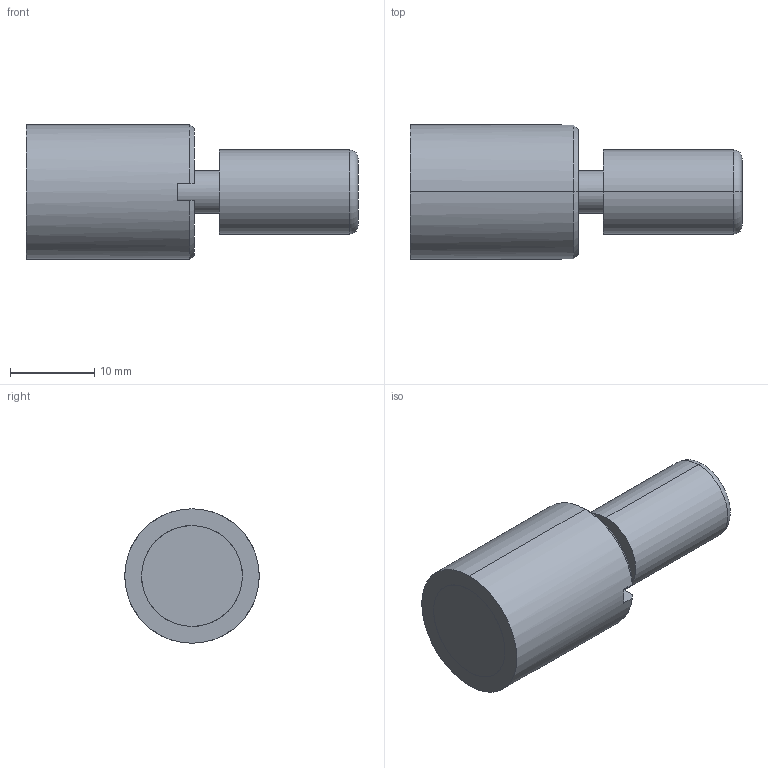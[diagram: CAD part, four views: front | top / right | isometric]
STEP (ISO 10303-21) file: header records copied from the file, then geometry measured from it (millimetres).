
FILE_DESCRIPTION(('CATIA V5 STEP Exchange'),'2;1');
FILE_NAME('C:\Users\Utente\Desktop\IO LAVORO\3D X SITO CF\X SITO\PLASTICA\CF-VPA\CF-VPA16.stp','2021-03-20T16:51:30+00:00',('none'),('none'),'CATIA Version 5 Release 20 GA (IN-10)','CATIA V5 STEP AP203','none');
FILE_SCHEMA(('CONFIG_CONTROL_DESIGN'));
Length unit declared in the file: millimetre
Products named in the file (1): CF-VPA16
Assembly tree (2 placements, depth 2):
  CF-VPA16
    #58
    #769
Bounding box: 39.5 x 16 x 16 mm (x, y, z)
Volume: 5199.4 mm3; surface area: 2933 mm2
Topology: 2 solids, 2 shells, 30 faces, 88 edges, 62 vertices
Faces by surface type: plane 12, cone 8, cylinder 8, torus 2
Entity records: 1149 total; most frequent: CARTESIAN_POINT 276, ORIENTED_EDGE 176, DIRECTION 144, EDGE_CURVE 88, AXIS2_PLACEMENT_3D 80, VERTEX_POINT 62, CIRCLE 46, EDGE_LOOP 32
